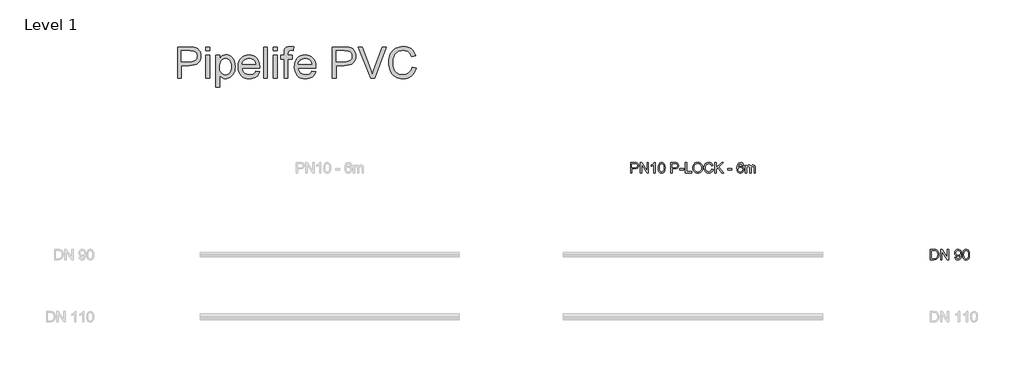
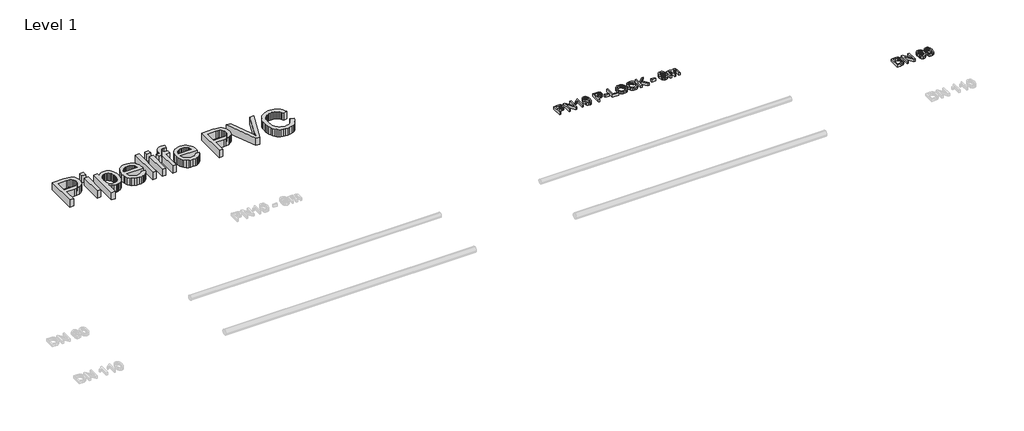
# One storey, part 3 of 3: 3 proxies.
"""IFC4 building model written with IfcOpenShell, lengths in millimetres."""

from ifc_helpers import new_model, si_unit, origin, origin_with_axes, place, context, project, spatial, polyline, outline, extrude, element, save

model = new_model("IFC4")

# Units and contexts
model_context = context("Model", 3, world=origin())
ifc_project = project(units=[si_unit("LENGTHUNIT", "METRE", prefix="MILLI")], contexts=[model_context])

# Site, building, storey
site = spatial("IfcSite", under=ifc_project)
building = spatial("IfcBuilding", under=site)
storey = spatial("IfcBuildingStorey", under=building, Name="Level 1", Elevation=0.0)

# Proxies
placement = place(None, origin())
element("IfcBuildingElementProxy", 1, Name="200mm Arial", ObjectType="200mm Arial", at=placement, inside=storey, context=model_context, shape_type="SweptSolid", body=[
    extrude(outline(polyline([(-8233.4339575, 2161.9491293), (-8233.4339575, 2362.8617496), (-8158.9746416, 2362.8617496), (-8128.9554708, 2360.9487633), (-8104.5526318, 2351.5555097), (-8095.6805444, 2343.2291138), (-8088.733706, 2332.1313403), (-8084.2455457, 2319.0408726), (-8082.7494922, 2304.7363944), (-8086.7900628, 2281.0570566), (-8098.9117746, 2261.326319), (-8108.6192607, 2253.5578775), (-8121.5794368, 2248.0089907), (-8157.257859, 2243.5698813), (-8208.3198799, 2243.5698813), (-8208.3198799, 2161.9491293), (-8233.4339575, 2161.9491293)]), holes=[polyline([(-8208.3198799, 2268.6839589), (-8155.786331, 2268.6839589), (-8133.5172076, 2270.9893527), (-8118.8019278, 2277.9055342), (-8110.5981593, 2289.0033077), (-8107.8635698, 2303.8534776), (-8109.4761192, 2315.1351921), (-8114.3137674, 2324.6510731), (-8121.7756406, 2331.8125092), (-8131.2608647, 2336.0308895), (-8156.3749422, 2337.7476721), (-8208.3198799, 2337.7476721), (-8208.3198799, 2268.6839589)])]), origin_with_axes(), (0.0, 0.0, 1.0), 50.0),
    extrude(outline(polyline([(-8048.2176356, 2161.9491293), (-8048.2176356, 2362.8617496), (-8021.3377245, 2362.8617496), (-7916.3687286, 2203.6914731), (-7916.3687286, 2362.8617496), (-7891.254651, 2362.8617496), (-7891.254651, 2161.9491293), (-7918.1345621, 2161.9491293), (-8023.1035581, 2321.1684569), (-8023.1035581, 2161.9491293), (-8048.2176356, 2161.9491293)])), origin_with_axes(), (0.0, 0.0, 1.0), 50.0),
    extrude(outline(polyline([(-7762.5450036, 2161.9491293), (-7787.6590812, 2161.9491293), (-7787.6590812, 2318.5197065), (-7811.4487835, 2301.5726092), (-7837.8872363, 2288.8929431), (-7837.8872363, 2312.6335946), (-7801.0745113, 2336.1289913), (-7787.6038989, 2349.7038369), (-7778.7318114, 2362.8617496), (-7762.5450036, 2362.8617496), (-7762.5450036, 2161.9491293)])), origin_with_axes(), (0.0, 0.0, 1.0), 50.0),
    extrude(outline(polyline([(-7702.8990695, 2260.7867587), (-7701.0535282, 2292.9457765), (-7695.5169041, 2318.5932829), (-7686.3443797, 2338.1216855), (-7673.5911372, 2351.9233917), (-7657.1652061, 2360.1271601), (-7636.974616, 2362.8617496), (-7621.4990467, 2361.2430689), (-7607.6421582, 2356.3870265), (-7596.0538754, 2348.483695), (-7587.384123, 2337.7231466), (-7575.6118992, 2307.9982814), (-7571.0501624, 2260.7867587), (-7572.8773097, 2228.811682), (-7578.3587514, 2203.2254892), (-7587.4760935, 2183.6786925), (-7600.2109419, 2169.821804), (-7616.6736612, 2161.5628532), (-7636.974616, 2158.8098696), (-7663.0697122, 2163.5923356), (-7682.886289, 2177.9397334), (-7691.6418804, 2193.0688805), (-7697.8958744, 2211.919767), (-7702.8990695, 2260.7867587)]), holes=[polyline([(-7677.784992, 2260.8358096), (-7674.841936, 2221.3314147), (-7666.0127681, 2198.4675487), (-7652.8671182, 2187.5598476), (-7636.974616, 2183.9239472), (-7621.0821138, 2187.5721103), (-7607.9364638, 2198.5165997), (-7599.1072959, 2221.3927284), (-7596.16424, 2260.8358096), (-7599.0091941, 2299.4511564), (-7607.5440563, 2322.492832), (-7620.6651808, 2333.9339621), (-7637.2689216, 2337.7476721), (-7652.9897455, 2334.3876832), (-7665.6203607, 2324.3077165), (-7674.7438341, 2299.8313011), (-7677.784992, 2260.8358096)])]), origin_with_axes(), (0.0, 0.0, 1.0), 50.0),
    extrude(outline(polyline([(-7461.1760732, 2161.9491293), (-7461.1760732, 2362.8617496), (-7386.7167574, 2362.8617496), (-7356.6975866, 2360.9487633), (-7332.2947476, 2351.5555097), (-7323.4226601, 2343.2291138), (-7316.4758218, 2332.1313403), (-7311.9876614, 2319.0408726), (-7310.491608, 2304.7363944), (-7314.5321786, 2281.0570566), (-7326.6538903, 2261.326319), (-7336.3613764, 2253.5578775), (-7349.3215526, 2248.0089907), (-7384.9999747, 2243.5698813), (-7436.0619957, 2243.5698813), (-7436.0619957, 2161.9491293), (-7461.1760732, 2161.9491293)]), holes=[polyline([(-7436.0619957, 2268.6839589), (-7383.5284467, 2268.6839589), (-7361.2593233, 2270.9893527), (-7346.5440435, 2277.9055342), (-7338.340275, 2289.0033077), (-7335.6056855, 2303.8534776), (-7337.2182349, 2315.1351921), (-7342.0558832, 2324.6510731), (-7349.5177563, 2331.8125092), (-7359.0029804, 2336.0308895), (-7384.1170579, 2337.7476721), (-7436.0619957, 2337.7476721), (-7436.0619957, 2268.6839589)])]), origin_with_axes(), (0.0, 0.0, 1.0), 50.0),
    extrude(outline(polyline([(-7291.6560498, 2221.5950635), (-7291.6560498, 2246.709141), (-7213.1745575, 2246.709141), (-7213.1745575, 2221.5950635), (-7291.6560498, 2221.5950635)])), origin_with_axes(), (0.0, 0.0, 1.0), 50.0),
    extrude(outline(polyline([(-7181.7819606, 2161.9491293), (-7181.7819606, 2362.8617496), (-7156.6678831, 2362.8617496), (-7156.6678831, 2187.0632069), (-7056.2115729, 2187.0632069), (-7056.2115729, 2161.9491293), (-7181.7819606, 2161.9491293)])), origin_with_axes(), (0.0, 0.0, 1.0), 50.0),
    extrude(outline(polyline([(-7037.3760148, 2259.7566891), (-7035.7021517, 2283.3225966), (-7030.6805624, 2304.1845714), (-7022.3112471, 2322.3426136), (-7010.5942055, 2337.796723), (-6996.2314793, 2350.1360983), (-6979.9251098, 2358.9499378), (-6961.6750972, 2364.2382414), (-6941.4814413, 2366.0010093), (-6915.1288278, 2362.6900714), (-6891.4985409, 2352.7572575), (-6871.8781679, 2336.9015435), (-6857.5552955, 2315.8219052), (-6848.799704, 2290.5361494), (-6845.8811735, 2262.062083), (-6848.9529882, 2233.2078718), (-6858.1684322, 2207.5664967), (-6873.018602, 2186.4500702), (-6892.9945944, 2171.1707047), (-6916.4225461, 2161.9000784), (-6941.6285941, 2158.8098696), (-6968.3858779, 2162.2250408), (-6992.1510548, 2172.4705544), (-7011.722377, 2188.620574), (-7025.8980965, 2209.7492632), (-7034.5065352, 2234.0601318), (-7037.3760148, 2259.7566891)]), holes=[polyline([(-7012.2619372, 2259.5114345), (-7007.240348, 2228.0820493), (-6992.1755803, 2204.1329315), (-6969.5324435, 2188.9761933), (-6941.7757469, 2183.9239472), (-6913.6143802, 2189.0252442), (-6890.9344552, 2204.3291352), (-6882.2110534, 2215.6016527), (-6875.9800521, 2229.0140171), (-6870.9952511, 2262.2582867), (-6873.1289666, 2284.4906219), (-6879.5301134, 2303.7063248), (-6890.0331443, 2319.4210174), (-6904.4725126, 2331.1503217), (-6921.8917251, 2338.4527793), (-6941.3342885, 2340.8869318), (-6968.3490897, 2336.1964364), (-6991.317189, 2322.12495), (-7000.4805163, 2311.1758622), (-7007.0257502, 2297.0905803), (-7012.2619372, 2259.5114345)])]), origin_with_axes(), (0.0, 0.0, 1.0), 50.0),
    extrude(outline(polyline([(-6670.0826308, 2233.3672873), (-6644.9685532, 2226.8925642), (-6656.5568361, 2197.6275515), (-6674.7424694, 2176.2474762), (-6698.6302736, 2163.1692713), (-6727.3250692, 2158.8098696), (-6756.4551919, 2162.1085449), (-6779.588838, 2172.0045705), (-6797.3207502, 2188.1545901), (-6810.2456709, 2210.2152471), (-6818.1367397, 2236.1509278), (-6820.767096, 2263.9260184), (-6817.7933832, 2293.221688), (-6808.8722448, 2318.5197065), (-6794.4696647, 2339.016865), (-6775.0516267, 2353.9099544), (-6752.0222138, 2362.9782456), (-6726.785509, 2366.0010093), (-6699.2495416, 2362.0891975), (-6676.4837775, 2350.3537618), (-6659.1994551, 2331.5182037), (-6648.1078129, 2306.3060242), (-6673.2218905, 2300.3218105), (-6681.928431, 2318.6362025), (-6693.8232822, 2331.1993726), (-6709.0535968, 2338.465042), (-6727.7665276, 2340.8869318), (-6749.3366753, 2338.2013932), (-6767.0563247, 2330.1447775), (-6780.5024116, 2317.5632133), (-6789.2518717, 2301.3028291), (-6794.0527318, 2282.9209921), (-6795.6530185, 2263.9750693), (-6793.7584262, 2240.7739782), (-6788.0746494, 2220.7121467), (-6778.3870901, 2204.5559957), (-6764.4811507, 2193.0719461), (-6747.809965, 2186.2109469), (-6729.8266668, 2183.9239472), (-6708.8635244, 2187.0386814), (-6691.395261, 2196.3828841), (-6678.2066915, 2211.8584534), (-6670.0826308, 2233.3672873)])), origin_with_axes(), (0.0, 0.0, 1.0), 50.0),
    extrude(outline(polyline([(-6610.4366966, 2161.9491293), (-6610.4366966, 2362.8617496), (-6585.3226191, 2362.8617496), (-6585.3226191, 2264.5146296), (-6482.3156604, 2362.8617496), (-6447.1951926, 2362.8617496), (-6533.671987, 2280.259979), (-6444.0559329, 2161.9491293), (-6474.7618168, 2161.9491293), (-6551.4774755, 2263.2883563), (-6585.3226191, 2231.0128426), (-6585.3226191, 2161.9491293), (-6610.4366966, 2161.9491293)])), origin_with_axes(), (0.0, 0.0, 1.0), 50.0),
    extrude(outline(polyline([(-6362.4351809, 2221.5950635), (-6362.4351809, 2246.709141), (-6283.9536886, 2246.709141), (-6283.9536886, 2221.5950635), (-6362.4351809, 2221.5950635)])), origin_with_axes(), (0.0, 0.0, 1.0), 50.0),
    extrude(outline(polyline([(-6054.7877311, 2309.4943349), (-6079.9018086, 2306.3550752), (-6089.4176896, 2327.2998234), (-6100.8097687, 2335.1357099), (-6114.5808181, 2337.7476721), (-6137.242349, 2331.6653565), (-6146.6785221, 2322.057505), (-6154.3856499, 2308.8321473), (-6159.5911802, 2290.1253478), (-6161.5225606, 2264.0731712), (-6151.4487253, 2275.8270009), (-6139.3760645, 2284.1104772), (-6125.9790285, 2289.0217018), (-6111.9320677, 2290.6587767), (-6088.7309765, 2286.1828791), (-6069.2577562, 2272.7551863), (-6056.0507926, 2252.2396337), (-6051.6484714, 2226.5001568), (-6053.7208733, 2208.5168586), (-6059.938079, 2191.8456728), (-6069.7850538, 2177.7067415), (-6082.7467627, 2167.3202065), (-6098.2345947, 2160.9374539), (-6115.6599386, 2158.8098696), (-6144.1523991, 2164.4507269), (-6166.8445868, 2181.3732987), (-6175.5036093, 2194.4821604), (-6181.6886253, 2211.2453167), (-6186.6366382, 2255.7345126), (-6181.1429337, 2305.7542013), (-6174.2758031, 2324.8319484), (-6164.6618203, 2339.9549641), (-6154.2415628, 2349.9766828), (-6142.159705, 2357.1350532), (-6113.0111882, 2362.8617496), (-6090.9750567, 2359.3178198), (-6073.3289837, 2348.6860301), (-6060.9681486, 2331.8002465), (-6054.7877311, 2309.4943349)]), holes=[polyline([(-6161.5225606, 2226.8925642), (-6155.7100251, 2205.1384756), (-6140.2589813, 2189.3440752), (-6117.6219759, 2183.9239472), (-6101.048892, 2186.7321131), (-6088.019738, 2195.1566108), (-6079.5768462, 2208.4003626), (-6076.7625489, 2225.6662909), (-6079.540058, 2242.2393748), (-6087.8725852, 2254.8761213), (-6101.1224684, 2262.8775547), (-6118.6520455, 2265.5446992), (-6135.2006039, 2262.8775547), (-6149.0390983, 2254.8761213), (-6158.401695, 2242.5459431), (-6161.5225606, 2226.8925642)])]), origin_with_axes(), (0.0, 0.0, 1.0), 50.0),
    extrude(outline(polyline([(-6023.3951342, 2161.9491293), (-6023.3951342, 2309.4943349), (-5998.2810566, 2309.4943349), (-5998.2810566, 2285.2141232), (-5990.727213, 2296.367079), (-5981.0151283, 2305.1042764), (-5969.4758964, 2310.751265), (-5956.4406111, 2312.6335946), (-5942.473358, 2310.7144768), (-5931.2774826, 2304.9571236), (-5922.9142986, 2295.7416796), (-5917.4451196, 2283.4482896), (-5908.2909893, 2296.2168605), (-5897.849272, 2305.3372683), (-5886.1199677, 2310.809513), (-5873.1030764, 2312.6335946), (-5854.2245987, 2309.5985681), (-5840.263477, 2300.4934887), (-5831.6366442, 2285.0731018), (-5828.7610333, 2263.0921525), (-5828.7610333, 2161.9491293), (-5853.8751108, 2161.9491293), (-5853.8751108, 2252.3009474), (-5856.2050301, 2273.2702211), (-5864.6417905, 2283.5954424), (-5878.9891883, 2287.519517), (-5892.5946908, 2285.0056567), (-5903.686333, 2277.4640758), (-5911.062367, 2264.3797395), (-5913.521045, 2245.237613), (-5913.521045, 2161.9491293), (-5938.6351225, 2161.9491293), (-5938.6351225, 2255.0968505), (-5940.0882564, 2269.2970955), (-5944.447658, 2279.4261131), (-5952.1179976, 2285.4961661), (-5963.5039454, 2287.519517), (-5982.0942489, 2282.1239144), (-5989.4518888, 2275.4775131), (-5994.4550839, 2266.3295141), (-5998.2810566, 2236.3593942), (-5998.2810566, 2161.9491293), (-6023.3951342, 2161.9491293)])), origin_with_axes(), (0.0, 0.0, 1.0), 50.0),
])
element("IfcBuildingElementProxy", 2, Name="200mm Arial", ObjectType="200mm Arial", at=placement, inside=storey, context=model_context, shape_type="SweptSolid", body=[
    extrude(outline(polyline([(-2460.6923074, 486.050427), (-2460.6923074, 686.9630473), (-2391.3833395, 686.9630473), (-2355.5271077, 684.0690423), (-2339.5119782, 678.4894987), (-2325.9984462, 669.697119), (-2312.1047695, 654.393228), (-2302.2087438, 635.3614662), (-2296.2858437, 612.9697154), (-2294.3115437, 587.5858577), (-2299.6580953, 547.0452618), (-2313.3923565, 517.7863805), (-2331.7374053, 499.563959), (-2355.7478369, 489.4839923), (-2388.0478761, 486.050427), (-2460.6923074, 486.050427)]), holes=[polyline([(-2435.5782298, 511.1645046), (-2391.1380848, 511.1645046), (-2358.8135202, 514.7942736), (-2340.1741658, 525.0459185), (-2331.4492311, 535.9168315), (-2324.8948002, 549.9883178), (-2320.792916, 567.3216911), (-2319.4256212, 587.9782652), (-2322.1050284, 615.3486856), (-2330.14325, 635.5576699), (-2342.0197071, 649.4390838), (-2356.2138207, 657.8267933), (-2391.8247979, 661.8489698), (-2435.5782298, 661.8489698), (-2435.5782298, 511.1645046)])]), origin_with_axes(), (0.0, 0.0, 1.0), 50.0),
    extrude(outline(polyline([(-2259.7796871, 486.050427), (-2259.7796871, 686.9630473), (-2232.899776, 686.9630473), (-2127.93078, 527.7927708), (-2127.93078, 686.9630473), (-2102.8167025, 686.9630473), (-2102.8167025, 486.050427), (-2129.6966136, 486.050427), (-2234.6656095, 645.2697546), (-2234.6656095, 486.050427), (-2259.7796871, 486.050427)])), origin_with_axes(), (0.0, 0.0, 1.0), 50.0),
    extrude(outline(polyline([(-1986.6640939, 536.2785821), (-1961.5500163, 539.4178418), (-1957.2580597, 525.1624145), (-1950.2683018, 515.4564612), (-1940.7524209, 509.883049), (-1928.8820951, 508.0252449), (-1908.5504835, 512.8077108), (-1894.7671715, 525.5854788), (-1886.5511402, 547.4131438), (-1882.9213712, 576.5493979), (-1883.068524, 581.4544911), (-1891.7689332, 570.8349642), (-1903.1548809, 562.4227292), (-1916.4047641, 556.9412875), (-1930.6969797, 555.1141403), (-1953.5976339, 559.5777751), (-1972.6600526, 572.9686798), (-1985.5175283, 593.6559106), (-1989.8033535, 620.0085242), (-1985.3090618, 647.2317919), (-1971.8261867, 668.5689476), (-1951.5742829, 682.3645224), (-1926.772905, 686.9630473), (-1908.0415801, 684.3388224), (-1890.9902496, 676.4661477), (-1876.728691, 663.7374307), (-1866.3666814, 646.5450788), (-1860.0575052, 622.7799019), (-1857.9544465, 590.3327099), (-1860.0513738, 555.929612), (-1866.342156, 529.3378751), (-1876.7716105, 509.3557514), (-1891.2845552, 494.7814931), (-1909.2555907, 485.8787488), (-1930.0593175, 482.9111674), (-1951.5313633, 486.4121777), (-1968.6624016, 496.9152086), (-1980.6430919, 513.7580726), (-1986.6640939, 536.2785821)]), holes=[polyline([(-1883.068524, 620.5971354), (-1885.778588, 637.6178091), (-1893.9087801, 650.7144081), (-1906.5271326, 659.0653294), (-1922.7016776, 661.8489698), (-1939.4770966, 658.8507315), (-1952.9170522, 649.8560168), (-1961.74622, 636.0910988), (-1964.689276, 618.7822509), (-1961.9056356, 603.2637621), (-1953.5547143, 590.9458466), (-1940.4458525, 582.907625), (-1923.3883907, 580.2282178), (-1907.3426043, 582.907625), (-1894.4238149, 590.9458466), (-1885.9073467, 603.7174832), (-1883.068524, 620.5971354)])]), origin_with_axes(), (0.0, 0.0, 1.0), 50.0),
    extrude(outline(polyline([(-1835.9796286, 584.8880564), (-1834.1340873, 617.0470742), (-1828.5974633, 642.6945806), (-1819.4249388, 662.2229832), (-1806.6716963, 676.0246894), (-1790.2457653, 684.2284578), (-1770.0551751, 686.9630473), (-1754.5796058, 685.3443666), (-1740.7227173, 680.4883242), (-1729.1344345, 672.5849927), (-1720.4646821, 661.8244443), (-1708.6924583, 632.0995791), (-1704.1307216, 584.8880564), (-1705.9578688, 552.9129797), (-1711.4393105, 527.3267869), (-1720.5566526, 507.7799902), (-1733.291501, 493.9231017), (-1749.7542203, 485.664151), (-1770.0551751, 482.9111674), (-1796.1502713, 487.6936333), (-1815.9668481, 502.0410311), (-1824.7224396, 517.1701782), (-1830.9764335, 536.0210647), (-1835.9796286, 584.8880564)]), holes=[polyline([(-1810.8655511, 584.9371073), (-1807.9224951, 545.4327124), (-1799.0933272, 522.5688464), (-1785.9476773, 511.6611453), (-1770.0551751, 508.0252449), (-1754.1626729, 511.673408), (-1741.0170229, 522.6178974), (-1732.1878551, 545.4940261), (-1729.2447991, 584.9371073), (-1732.0897532, 623.5524541), (-1740.6246155, 646.5941297), (-1753.74574, 658.0352598), (-1770.3494807, 661.8489698), (-1786.0703046, 658.4889809), (-1798.7009198, 648.4090143), (-1807.8243933, 623.9325988), (-1810.8655511, 584.9371073)])]), origin_with_axes(), (0.0, 0.0, 1.0), 50.0),
])
element("IfcBuildingElementProxy", 3, Name="600mm Arial", ObjectType="600mm Arial", at=placement, inside=storey, context=model_context, shape_type="SweptSolid", body=[
    extrude(outline(polyline([(-16966.7426717, 3990.4626098), (-16966.7426717, 4593.2004707), (-16743.3647242, 4593.2004707), (-16691.3462101, 4591.7657309), (-16653.3072118, 4587.4615116), (-16613.152892, 4576.7377514), (-16580.0986947, 4559.2817508), (-16553.4824324, 4534.3025633), (-16532.6419174, 4501.0092427), (-16519.1774363, 4461.7378398), (-16514.689276, 4418.824405), (-16517.7197039, 4381.8246734), (-16526.8109877, 4347.7863917), (-16541.9631274, 4316.7095602), (-16563.176123, 4288.5941787), (-16592.2985814, 4265.2888543), (-16631.1791098, 4248.642194), (-16679.8177081, 4238.6541979), (-16738.2143763, 4235.3248658), (-16891.4004391, 4235.3248658), (-16891.4004391, 3990.4626098), (-16966.7426717, 3990.4626098)]), holes=[polyline([(-16891.4004391, 4310.6670984), (-16733.7997923, 4310.6670984), (-16697.5634158, 4312.3961438), (-16666.992422, 4317.5832799), (-16642.0868109, 4326.2285068), (-16622.8465826, 4338.3318245), (-16608.4899877, 4353.5713361), (-16598.2352771, 4371.625145), (-16592.0824507, 4392.4932512), (-16590.0315086, 4416.1756547), (-16594.8691569, 4450.0207982), (-16609.3821016, 4478.568441), (-16631.767721, 4500.0527496), (-16660.2233933, 4512.7078902), (-16689.2860709, 4516.5706511), (-16735.5656259, 4517.8582381), (-16891.4004391, 4517.8582381), (-16891.4004391, 4310.6670984)])]), origin_with_axes(), (0.0, 0.0, 1.0), 150.0),
    extrude(outline(polyline([(-16420.5114852, 3990.4626098), (-16420.5114852, 4433.0982264), (-16345.1692526, 4433.0982264), (-16345.1692526, 3990.4626098), (-16420.5114852, 3990.4626098)])), origin_with_axes(), (0.0, 0.0, 1.0), 150.0),
    extrude(outline(polyline([(-16420.5114852, 4517.8582381), (-16420.5114852, 4593.2004707), (-16345.1692526, 4593.2004707), (-16345.1692526, 4517.8582381), (-16420.5114852, 4517.8582381)])), origin_with_axes(), (0.0, 0.0, 1.0), 150.0),
    extrude(outline(polyline([(-16232.1559037, 3820.9425865), (-16232.1559037, 4433.0982264), (-16156.8136711, 4433.0982264), (-16156.8136711, 4359.2275218), (-16132.2391538, 4395.6662334), (-16104.7215806, 4421.6938846), (-16072.6422706, 4437.3104753), (-16034.3825431, 4442.5160055), (-16008.1065716, 4440.6949896), (-15983.4308868, 4435.231942), (-15960.3554886, 4426.1268626), (-15938.8803772, 4413.3797515), (-15919.4746019, 4397.3217024), (-15902.6072124, 4378.2838091), (-15888.2782087, 4356.2660717), (-15876.4875908, 4331.2684902), (-15860.7054532, 4275.7550971), (-15855.4447407, 4215.1649325), (-15861.3860349, 4150.730401), (-15868.8126526, 4121.0653166), (-15879.2099175, 4093.1016865), (-15892.4352753, 4067.570676), (-15908.3461716, 4045.2034507), (-15926.9426064, 4026.0000106), (-15948.2245798, 4009.9603556), (-15971.1482267, 3997.3098135), (-15994.6696817, 3988.273712), (-16018.788945, 3982.8520511), (-16043.5060166, 3981.0448308), (-16078.1421064, 3985.882479), (-16109.0625881, 4000.3954237), (-16135.5316977, 4022.3027965), (-16156.8136711, 4049.3237291), (-16156.8136711, 3820.9425865), (-16232.1559037, 3820.9425865)]), holes=[polyline([(-16156.8136711, 4208.248751), (-16154.7765246, 4171.9387981), (-16148.6650849, 4140.7056167), (-16138.4793522, 4114.5492068), (-16124.2193263, 4093.4695685), (-16107.0530327, 4077.2459725), (-16088.1484967, 4065.6576896), (-16067.5057182, 4058.7047199), (-16045.1246974, 4056.3870634), (-16022.4217797, 4058.7874934), (-16001.4019222, 4065.9887834), (-15982.0651249, 4077.9909335), (-15964.4113876, 4094.7939437), (-15949.7007063, 4116.6369371), (-15939.1930769, 4143.7590372), (-15932.8884992, 4176.1602439), (-15930.7869733, 4213.8405573), (-15932.8379154, 4249.8378105), (-15938.9907418, 4281.0158096), (-15949.2454524, 4307.3745546), (-15963.6020472, 4328.9140454), (-15980.8097276, 4345.6526762), (-15999.6176946, 4357.608841), (-16020.0259482, 4364.7825399), (-16042.0344886, 4367.1737729), (-16063.9740511, 4364.6307886), (-16084.6168295, 4357.0018357), (-16103.962824, 4344.2869143), (-16122.0120344, 4326.4860242), (-16137.2377504, 4303.8382889), (-16148.1132619, 4276.5828316), (-16154.6385688, 4244.7196523), (-16156.8136711, 4208.248751)])]), origin_with_axes(), (0.0, 0.0, 1.0), 150.0),
    extrude(outline(polyline([(-15460.7809362, 4122.3115169), (-15386.9102316, 4112.8937378), (-15398.2363985, 4083.3068284), (-15413.5264939, 4057.233192), (-15432.7805179, 4034.6728286), (-15455.9984703, 4015.6257383), (-15482.9412279, 4000.4965913), (-15513.3696674, 3989.6900576), (-15547.2837889, 3983.2061375), (-15584.6835922, 3981.0448308), (-15631.4321967, 3984.7742345), (-15673.0856356, 3995.9624457), (-15709.6439089, 4014.6094643), (-15741.1070165, 4040.7152904), (-15766.4081008, 4073.553357), (-15784.4803038, 4112.3970971), (-15795.3236256, 4157.2465109), (-15798.9380662, 4208.1015982), (-15795.2868374, 4260.6811323), (-15784.333151, 4307.0250667), (-15766.077007, 4347.1334012), (-15740.5184054, 4381.0061359), (-15709.1380712, 4407.9167039), (-15673.4167294, 4427.1385381), (-15633.3543802, 4438.6716387), (-15588.9510233, 4442.5160055), (-15545.9778078, 4438.6808357), (-15507.1156735, 4427.1753263), (-15472.3646205, 4407.9994773), (-15441.7246489, 4381.1532887), (-15416.7132717, 4347.3541304), (-15398.8480023, 4307.3193723), (-15388.1288407, 4261.0490143), (-15384.5557868, 4208.5430566), (-15384.9972452, 4188.2359704), (-15723.5958336, 4188.2359704), (-15719.2318334, 4158.1708144), (-15710.5544168, 4131.8396606), (-15697.5635839, 4109.242509), (-15680.2593345, 4090.3793597), (-15659.598162, 4075.5077301), (-15636.5365594, 4064.8851375), (-15611.0745268, 4058.5115819), (-15583.2120642, 4056.3870634), (-15543.1129267, 4060.3234007), (-15509.3413596, 4072.1324128), (-15481.8973627, 4092.5498635), (-15460.7809362, 4122.3115169)]), holes=[polyline([(-15723.5958336, 4263.5782031), (-15459.8980194, 4263.5782031), (-15470.0883507, 4303.3830349), (-15478.8531392, 4319.0364138), (-15490.064343, 4331.8571014), (-15510.6105525, 4347.3081452), (-15533.9894533, 4358.344605), (-15560.2010454, 4364.9664809), (-15589.2453289, 4367.1737729), (-15615.7374311, 4365.4125378), (-15640.0314384, 4360.1288327), (-15662.1273507, 4351.3226574), (-15682.0251681, 4338.9940121), (-15698.7224122, 4323.7131137), (-15711.2166044, 4306.0501794), (-15719.5077449, 4286.0052092), (-15723.5958336, 4263.5782031)])]), origin_with_axes(), (0.0, 0.0, 1.0), 150.0),
    extrude(outline(polyline([(-15309.2135542, 3990.4626098), (-15309.2135542, 4593.2004707), (-15233.8713216, 4593.2004707), (-15233.8713216, 3990.4626098), (-15309.2135542, 3990.4626098)])), origin_with_axes(), (0.0, 0.0, 1.0), 150.0),
    extrude(outline(polyline([(-15120.8579727, 4517.8582381), (-15120.8579727, 4593.2004707), (-15045.5157401, 4593.2004707), (-15045.5157401, 4517.8582381), (-15120.8579727, 4517.8582381)])), origin_with_axes(), (0.0, 0.0, 1.0), 150.0),
    extrude(outline(polyline([(-15120.8579727, 3990.4626098), (-15120.8579727, 4433.0982264), (-15045.5157401, 4433.0982264), (-15045.5157401, 3990.4626098), (-15120.8579727, 3990.4626098)])), origin_with_axes(), (0.0, 0.0, 1.0), 150.0),
    extrude(outline(polyline([(-14913.666833, 3990.4626098), (-14913.666833, 4357.7559938), (-14979.5912865, 4357.7559938), (-14979.5912865, 4433.0982264), (-14913.666833, 4433.0982264), (-14913.666833, 4477.6855242), (-14911.6802702, 4514.5840884), (-14905.7205819, 4540.519769), (-14890.5638437, 4565.5725329), (-14867.1665488, 4585.4013724), (-14834.4250512, 4598.3140305), (-14791.235705, 4602.6182498), (-14758.5309956, 4600.5581106), (-14722.5153483, 4594.3776931), (-14733.5518082, 4523.74435), (-14776.9618836, 4527.2760172), (-14805.6014969, 4524.1490202), (-14824.418661, 4514.7680294), (-14834.8481155, 4496.8521762), (-14838.3246004, 4468.1205924), (-14838.3246004, 4433.0982264), (-14753.5645887, 4433.0982264), (-14753.5645887, 4357.7559938), (-14838.3246004, 4357.7559938), (-14838.3246004, 3990.4626098), (-14913.666833, 3990.4626098)])), origin_with_axes(), (0.0, 0.0, 1.0), 150.0),
    extrude(outline(polyline([(-14377.7363424, 4122.3115169), (-14303.8656378, 4112.8937378), (-14315.1918047, 4083.3068284), (-14330.4819001, 4057.233192), (-14349.7359241, 4034.6728286), (-14372.9538765, 4015.6257383), (-14399.8966341, 4000.4965913), (-14430.3250736, 3989.6900576), (-14464.2391951, 3983.2061375), (-14501.6389984, 3981.0448308), (-14548.3876029, 3984.7742345), (-14590.0410418, 3995.9624457), (-14626.5993151, 4014.6094643), (-14658.0624227, 4040.7152904), (-14683.363507, 4073.553357), (-14701.43571, 4112.3970971), (-14712.2790318, 4157.2465109), (-14715.8934724, 4208.1015982), (-14712.2422436, 4260.6811323), (-14701.2885572, 4307.0250667), (-14683.0324132, 4347.1334012), (-14657.4738116, 4381.0061359), (-14626.0934774, 4407.9167039), (-14590.3721356, 4427.1385381), (-14550.3097864, 4438.6716387), (-14505.9064295, 4442.5160055), (-14462.933214, 4438.6808357), (-14424.0710797, 4427.1753263), (-14389.3200267, 4407.9994773), (-14358.6800551, 4381.1532887), (-14333.6686779, 4347.3541304), (-14315.8034085, 4307.3193723), (-14305.0842469, 4261.0490143), (-14301.511193, 4208.5430566), (-14301.9526514, 4188.2359704), (-14640.5512398, 4188.2359704), (-14636.1872396, 4158.1708144), (-14627.509823, 4131.8396606), (-14614.5189901, 4109.242509), (-14597.2147407, 4090.3793597), (-14576.5535682, 4075.5077301), (-14553.4919656, 4064.8851375), (-14528.029933, 4058.5115819), (-14500.1674704, 4056.3870634), (-14460.0683329, 4060.3234007), (-14426.2967658, 4072.1324128), (-14398.8527689, 4092.5498635), (-14377.7363424, 4122.3115169)]), holes=[polyline([(-14640.5512398, 4263.5782031), (-14376.8534256, 4263.5782031), (-14387.0437569, 4303.3830349), (-14395.8085454, 4319.0364138), (-14407.0197492, 4331.8571014), (-14427.5659587, 4347.3081452), (-14450.9448595, 4358.344605), (-14477.1564516, 4364.9664809), (-14506.2007351, 4367.1737729), (-14532.6928373, 4365.4125378), (-14556.9868446, 4360.1288327), (-14579.0827569, 4351.3226574), (-14598.9805743, 4338.9940121), (-14615.6778184, 4323.7131137), (-14628.1720106, 4306.0501794), (-14636.4631511, 4286.0052092), (-14640.5512398, 4263.5782031)])]), origin_with_axes(), (0.0, 0.0, 1.0), 150.0),
    extrude(outline(polyline([(-13981.3067044, 3990.4626098), (-13981.3067044, 4593.2004707), (-13757.928757, 4593.2004707), (-13705.9102428, 4591.7657309), (-13667.8712445, 4587.4615116), (-13627.7169248, 4576.7377514), (-13594.6627275, 4559.2817508), (-13568.0464651, 4534.3025633), (-13547.2059501, 4501.0092427), (-13533.7414691, 4461.7378398), (-13529.2533087, 4418.824405), (-13532.2837367, 4381.8246734), (-13541.3750205, 4347.7863917), (-13556.5271602, 4316.7095602), (-13577.7401557, 4288.5941787), (-13606.8626142, 4265.2888543), (-13645.7431425, 4248.642194), (-13694.3817408, 4238.6541979), (-13752.778409, 4235.3248658), (-13905.9644718, 4235.3248658), (-13905.9644718, 3990.4626098), (-13981.3067044, 3990.4626098)]), holes=[polyline([(-13905.9644718, 4310.6670984), (-13748.3638251, 4310.6670984), (-13712.1274486, 4312.3961438), (-13681.5564548, 4317.5832799), (-13656.6508437, 4326.2285068), (-13637.4106153, 4338.3318245), (-13623.0540205, 4353.5713361), (-13612.7993099, 4371.625145), (-13606.6464835, 4392.4932512), (-13604.5955414, 4416.1756547), (-13609.4331896, 4450.0207982), (-13623.9461343, 4478.568441), (-13646.3317537, 4500.0527496), (-13674.787426, 4512.7078902), (-13703.8501037, 4516.5706511), (-13750.1296587, 4517.8582381), (-13905.9644718, 4517.8582381), (-13905.9644718, 4310.6670984)])]), origin_with_axes(), (0.0, 0.0, 1.0), 150.0),
    extrude(outline(polyline([(-13247.6028532, 3990.4626098), (-13487.4619141, 4593.2004707), (-13406.8221808, 4593.2004707), (-13246.2784781, 4158.9525636), (-13213.7577097, 4061.0959529), (-13181.6783997, 4158.9525636), (-13020.6932386, 4593.2004707), (-12940.0535053, 4593.2004707), (-13169.7590231, 3990.4626098), (-13247.6028532, 3990.4626098)])), origin_with_axes(), (0.0, 0.0, 1.0), 150.0),
    extrude(outline(polyline([(-12446.2087149, 4204.7170838), (-12370.8664823, 4185.2929145), (-12385.7749002, 4138.4385439), (-12405.6313309, 4097.4978763), (-12430.4357744, 4062.4709119), (-12460.1882308, 4033.3576505), (-12494.2173153, 4010.4707918), (-12531.8516434, 3994.1230357), (-12573.0912151, 3984.314382), (-12617.9360303, 3981.0448308), (-12663.879893, 3983.5188372), (-12705.3263983, 3990.9408564), (-12742.2755461, 4003.3108885), (-12774.7273366, 4020.6289334), (-12803.1278267, 4042.6374738), (-12827.9230731, 4069.0789922), (-12849.1130761, 4099.9534886), (-12866.6978354, 4135.2609631), (-12880.5072058, 4173.4747054), (-12890.3710418, 4213.0680051), (-12896.2893434, 4254.0408623), (-12898.2621106, 4296.393277), (-12896.031826, 4341.8359005), (-12889.3409722, 4384.2802857), (-12878.1895493, 4423.7264326), (-12862.5775571, 4460.1743413), (-12842.8544836, 4493.0216049), (-12819.3698168, 4521.6658168), (-12792.1235565, 4546.1069768), (-12761.1157028, 4566.3450851), (-12727.399318, 4582.2145946), (-12692.0274641, 4593.5499586), (-12655.0001413, 4600.351177), (-12616.3173495, 4602.6182498), (-12573.2245723, 4599.6843909), (-12533.7094475, 4590.8828142), (-12497.7719751, 4576.2135196), (-12465.4121551, 4555.6765072), (-12437.1634164, 4529.814403), (-12413.5591879, 4499.1698328), (-12394.5994695, 4463.7427966), (-12380.2842614, 4423.5332946), (-12455.626494, 4405.5806532), (-12467.4906884, 4435.2089494), (-12481.7461157, 4460.5238292), (-12498.392776, 4481.5252926), (-12517.4306692, 4498.2133396), (-12538.97016, 4510.928261), (-12563.121613, 4520.0103478), (-12589.8850282, 4525.4595998), (-12619.2604055, 4527.2760172), (-12653.0595638, 4525.2618633), (-12683.9708484, 4519.2194015), (-12711.9942594, 4509.1486319), (-12737.1297967, 4495.0495544), (-12759.0601622, 4477.5567655), (-12777.4680575, 4457.3048617), (-12792.3534827, 4434.2938429), (-12803.7164379, 4408.5237092), (-12818.119018, 4353.3781981), (-12822.919878, 4296.5404298), (-12817.2361012, 4226.9371563), (-12810.1313802, 4195.6671867), (-12800.1847707, 4166.7516619), (-12787.2353245, 4140.7653975), (-12771.1220931, 4118.2832091), (-12751.8450765, 4099.3050966), (-12729.4042748, 4083.8310602), (-12704.8895384, 4071.8243116), (-12679.3907176, 4063.2480626), (-12652.9078125, 4058.1023132), (-12625.440823, 4056.3870634), (-12592.6855299, 4058.723114), (-12562.5513959, 4065.731266), (-12535.0384212, 4077.4115194), (-12510.1466057, 4093.7638741), (-12488.4645606, 4114.7147537), (-12470.5808971, 4140.1905819), (-12456.4956152, 4170.1913586), (-12446.2087149, 4204.7170838)])), origin_with_axes(), (0.0, 0.0, 1.0), 150.0),
])

save(model, "model.ifc")
